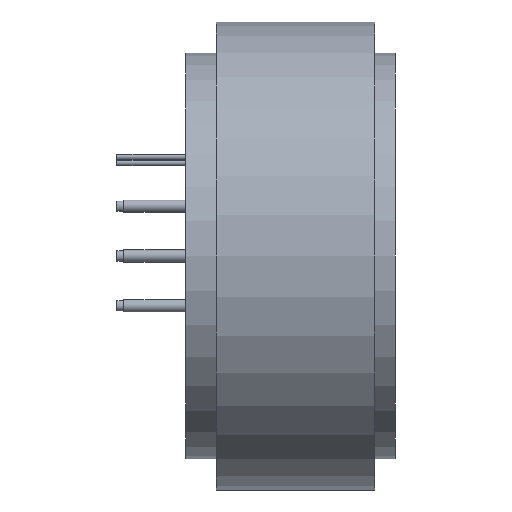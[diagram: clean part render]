
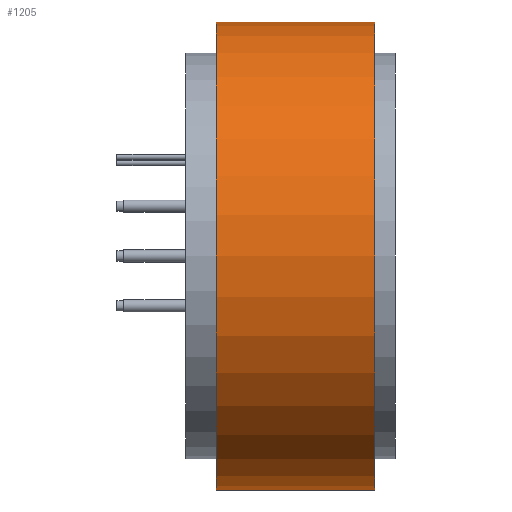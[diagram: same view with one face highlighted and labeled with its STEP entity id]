
A CAD part, left-side view. The second image highlights one B-rep face of the part: STEP entity #1205.
In plain terms, the highlighted cylindrical face has radius 34.05 mm (diameter 68.1 mm), a partial arc.
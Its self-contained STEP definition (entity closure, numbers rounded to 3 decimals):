
#35 = CARTESIAN_POINT ( 'NONE',  ( 0., 23., 34.05 ) ) ;
#51 = FACE_OUTER_BOUND ( 'NONE', #1111, .T. ) ;
#52 = DIRECTION ( 'NONE',  ( 0., -1., 0. ) ) ;
#105 = DIRECTION ( 'NONE',  ( 0., -1., 0. ) ) ;
#139 = VERTEX_POINT ( 'NONE', #703 ) ;
#237 = DIRECTION ( 'NONE',  ( 0., -1., 0. ) ) ;
#244 = CIRCLE ( 'NONE', #915, 34.05 ) ;
#251 = CARTESIAN_POINT ( 'NONE',  ( 0., 23., 0. ) ) ;
#262 = CARTESIAN_POINT ( 'NONE',  ( 0., 23., 34.05 ) ) ;
#353 = DIRECTION ( 'NONE',  ( 0., 0., 1. ) ) ;
#363 = DIRECTION ( 'NONE',  ( 0., 1., 0. ) ) ;
#374 = CYLINDRICAL_SURFACE ( 'NONE', #1276, 34.05 ) ;
#413 = EDGE_CURVE ( 'NONE', #877, #920, #809, .T. ) ;
#559 = CARTESIAN_POINT ( 'NONE',  ( 0., 0., 34.05 ) ) ;
#600 = ORIENTED_EDGE ( 'NONE', *, *, #731, .F. ) ;
#627 = ORIENTED_EDGE ( 'NONE', *, *, #951, .T. ) ;
#703 = CARTESIAN_POINT ( 'NONE',  ( 0., 0., -34.05 ) ) ;
#731 = EDGE_CURVE ( 'NONE', #920, #734, #1591, .T. ) ;
#734 = VERTEX_POINT ( 'NONE', #559 ) ;
#767 = DIRECTION ( 'NONE',  ( 0., 0., 1. ) ) ;
#809 = CIRCLE ( 'NONE', #1076, 34.05 ) ;
#815 = ORIENTED_EDGE ( 'NONE', *, *, #413, .F. ) ;
#877 = VERTEX_POINT ( 'NONE', #976 ) ;
#881 = DIRECTION ( 'NONE',  ( 0., 1., 0. ) ) ;
#915 = AXIS2_PLACEMENT_3D ( 'NONE', #1124, #363, #353 ) ;
#920 = VERTEX_POINT ( 'NONE', #262 ) ;
#951 = EDGE_CURVE ( 'NONE', #877, #139, #1401, .T. ) ;
#976 = CARTESIAN_POINT ( 'NONE',  ( 0., 23., -34.05 ) ) ;
#1076 = AXIS2_PLACEMENT_3D ( 'NONE', #251, #881, #767 ) ;
#1111 = EDGE_LOOP ( 'NONE', ( #600, #815, #627, #1239 ) ) ;
#1124 = CARTESIAN_POINT ( 'NONE',  ( 0., 0., 0. ) ) ;
#1147 = CARTESIAN_POINT ( 'NONE',  ( 0., 23., 0. ) ) ;
#1205 = ADVANCED_FACE ( 'NONE', ( #51 ), #374, .T. ) ;
#1239 = ORIENTED_EDGE ( 'NONE', *, *, #1260, .T. ) ;
#1244 = VECTOR ( 'NONE', #105, 1000. ) ;
#1260 = EDGE_CURVE ( 'NONE', #139, #734, #244, .T. ) ;
#1276 = AXIS2_PLACEMENT_3D ( 'NONE', #1147, #237, #1278 ) ;
#1278 = DIRECTION ( 'NONE',  ( 0., 0., -1. ) ) ;
#1401 = LINE ( 'NONE', #1540, #1244 ) ;
#1412 = VECTOR ( 'NONE', #52, 1000. ) ;
#1540 = CARTESIAN_POINT ( 'NONE',  ( 0., 23., -34.05 ) ) ;
#1591 = LINE ( 'NONE', #35, #1412 ) ;
